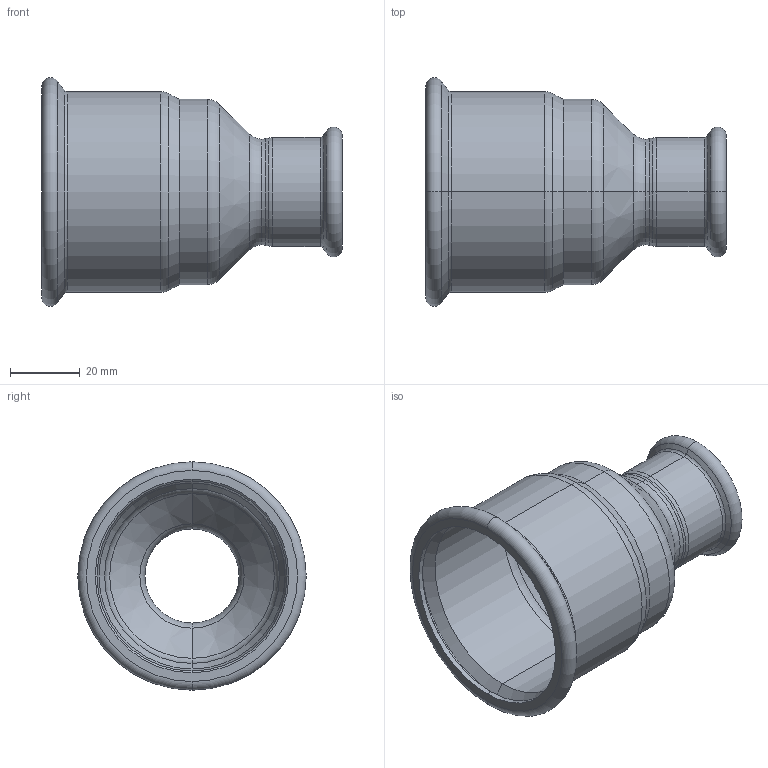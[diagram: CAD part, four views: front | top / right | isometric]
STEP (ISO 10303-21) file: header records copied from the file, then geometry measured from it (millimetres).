
FILE_DESCRIPTION (( 'STEP AP214' ), '1' );
FILE_NAME ('R542800.STEP', '2025-08-17T15:05:12', ( '' ), ( '' ), 'SwSTEP 2.0', 'SolidWorks 2020', '' );
FILE_SCHEMA (( 'AUTOMOTIVE_DESIGN' ));
Length unit declared in the file: millimetre
Products named in the file (1): R542800
Bounding box: 86 x 65.38 x 65.38 mm (x, y, z)
Volume: 22429 mm3; surface area: 29198.6 mm2
Topology: 1 solids, 1 shells, 76 faces, 152 edges, 80 vertices
Faces by surface type: torus 36, cone 20, cylinder 16, plane 4
Entity records: 2746 total; most frequent: DIRECTION 422, CARTESIAN_POINT 309, ORIENTED_EDGE 304, AXIS2_PLACEMENT_3D 193, EDGE_CURVE 152, CIRCLE 116, VERTEX_POINT 80, EDGE_LOOP 80
